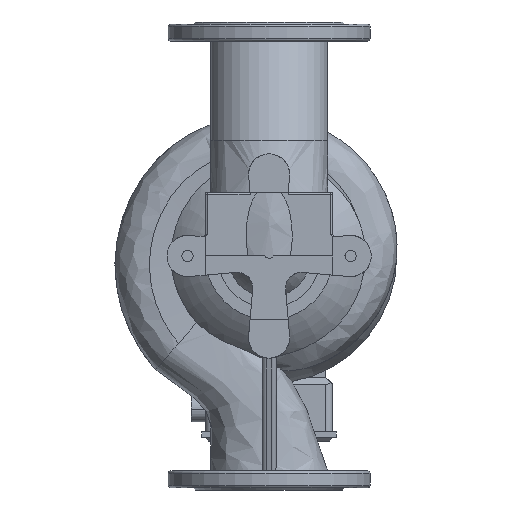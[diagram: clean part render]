
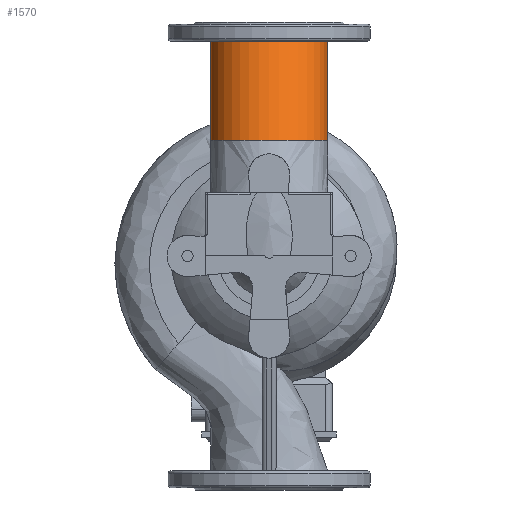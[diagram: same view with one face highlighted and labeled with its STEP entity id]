
A CAD part, front view. The second image highlights one B-rep face of the part: STEP entity #1570.
In plain terms, the highlighted free-form (B-spline) face has degree [3, 1] with [7, 2] control points.
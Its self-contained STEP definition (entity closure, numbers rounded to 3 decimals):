
#87 = AXIS2_PLACEMENT_3D ( 'NONE', #618, #7766, #1107 ) ;
#618 = CARTESIAN_POINT ( 'NONE',  ( 0., 0., 303. ) ) ;
#664 = VERTEX_POINT ( 'NONE', #5481 ) ;
#1107 = DIRECTION ( 'NONE',  ( -1., 0., 0. ) ) ;
#1570 = ADVANCED_FACE ( 'NONE', ( #31052 ), #1951, .F. ) ;
#1865 = CARTESIAN_POINT ( 'NONE',  ( -82.5, 0., 303. ) ) ;
#1876 = CARTESIAN_POINT ( 'NONE',  ( -82.5, 0., 303. ) ) ;
#1927 = EDGE_CURVE ( 'NONE', #29829, #6355, #22548, .T. ) ;
#1951 =( BOUNDED_SURFACE ( )  B_SPLINE_SURFACE ( 3, 1, ( 
 ( #16642, #30759 ),
 ( #19186, #4093 ),
 ( #28512, #13777 ),
 ( #21251, #21084 ),
 ( #19015, #23616 ),
 ( #23445, #2322 ),
 ( #13926, #1865 ) ),
 .UNSPECIFIED., .T., .F., .F. ) 
 B_SPLINE_SURFACE_WITH_KNOTS ( ( 4, 3, 4 ),
 ( 2, 2 ),
 ( 0., 0.5, 1. ),
 ( 0., 1. ),
 .UNSPECIFIED. ) 
 GEOMETRIC_REPRESENTATION_ITEM ( )  RATIONAL_B_SPLINE_SURFACE ( (
 ( 1., 1.),
 ( 0.333, 0.333),
 ( 0.333, 0.333),
 ( 1., 1.),
 ( 0.333, 0.333),
 ( 0.333, 0.333),
 ( 1., 1.) ) ) 
 REPRESENTATION_ITEM ( '' )  SURFACE ( )  );
#2322 = CARTESIAN_POINT ( 'NONE',  ( -82.5, -165., 303. ) ) ;
#3192 = EDGE_CURVE ( 'NONE', #29829, #664, #30754, .T. ) ;
#4093 = CARTESIAN_POINT ( 'NONE',  ( -82.5, 165., 303. ) ) ;
#4247 = CARTESIAN_POINT ( 'NONE',  ( -82.5, -65.302, 162.96 ) ) ;
#5481 = CARTESIAN_POINT ( 'NONE',  ( 82.5, 0., 303. ) ) ;
#5933 = EDGE_LOOP ( 'NONE', ( #19991, #20285, #20186, #25423 ) ) ;
#6355 = VERTEX_POINT ( 'NONE', #19315 ) ;
#7356 = CARTESIAN_POINT ( 'NONE',  ( 82.5, 0., 303. ) ) ;
#7766 = DIRECTION ( 'NONE',  ( 0., 0., -1. ) ) ;
#9293 = B_SPLINE_CURVE_WITH_KNOTS ( 'NONE', 1,
 ( #4247, #1876 ),
 .UNSPECIFIED., .F., .F.,
 ( 2, 2 ),
 ( 0., 1. ),
 .UNSPECIFIED. ) ;
#9391 = AXIS2_PLACEMENT_3D ( 'NONE', #11348, #11673, #16145 ) ;
#9746 = CARTESIAN_POINT ( 'NONE',  ( 82.5, -65.302, 162.96 ) ) ;
#11348 = CARTESIAN_POINT ( 'NONE',  ( 0., -65.302, 162.96 ) ) ;
#11673 = DIRECTION ( 'NONE',  ( 0., 0., -1. ) ) ;
#13777 = CARTESIAN_POINT ( 'NONE',  ( 82.5, 165., 303. ) ) ;
#13808 = CIRCLE ( 'NONE', #87, 82.5 ) ;
#13926 = CARTESIAN_POINT ( 'NONE',  ( -82.5, -65.302, 162.96 ) ) ;
#16145 = DIRECTION ( 'NONE',  ( -1., 0., 0. ) ) ;
#16642 = CARTESIAN_POINT ( 'NONE',  ( -82.5, -65.302, 162.96 ) ) ;
#17139 = EDGE_CURVE ( 'NONE', #6355, #22781, #9293, .T. ) ;
#18943 = CARTESIAN_POINT ( 'NONE',  ( 82.5, -65.302, 162.96 ) ) ;
#19015 = CARTESIAN_POINT ( 'NONE',  ( 82.5, -230.302, 162.96 ) ) ;
#19186 = CARTESIAN_POINT ( 'NONE',  ( -82.5, 99.698, 162.96 ) ) ;
#19315 = CARTESIAN_POINT ( 'NONE',  ( -82.5, -65.302, 162.96 ) ) ;
#19991 = ORIENTED_EDGE ( 'NONE', *, *, #1927, .F. ) ;
#20186 = ORIENTED_EDGE ( 'NONE', *, *, #22042, .T. ) ;
#20285 = ORIENTED_EDGE ( 'NONE', *, *, #3192, .T. ) ;
#21084 = CARTESIAN_POINT ( 'NONE',  ( 82.5, 0., 303. ) ) ;
#21251 = CARTESIAN_POINT ( 'NONE',  ( 82.5, -65.302, 162.96 ) ) ;
#22042 = EDGE_CURVE ( 'NONE', #664, #22781, #13808, .T. ) ;
#22548 = CIRCLE ( 'NONE', #9391, 82.5 ) ;
#22781 = VERTEX_POINT ( 'NONE', #25429 ) ;
#23445 = CARTESIAN_POINT ( 'NONE',  ( -82.5, -230.302, 162.96 ) ) ;
#23616 = CARTESIAN_POINT ( 'NONE',  ( 82.5, -165., 303. ) ) ;
#25423 = ORIENTED_EDGE ( 'NONE', *, *, #17139, .F. ) ;
#25429 = CARTESIAN_POINT ( 'NONE',  ( -82.5, 0., 303. ) ) ;
#28512 = CARTESIAN_POINT ( 'NONE',  ( 82.5, 99.698, 162.96 ) ) ;
#29829 = VERTEX_POINT ( 'NONE', #18943 ) ;
#30754 = B_SPLINE_CURVE_WITH_KNOTS ( 'NONE', 1,
 ( #9746, #7356 ),
 .UNSPECIFIED., .F., .F.,
 ( 2, 2 ),
 ( 0., 1. ),
 .UNSPECIFIED. ) ;
#30759 = CARTESIAN_POINT ( 'NONE',  ( -82.5, 0., 303. ) ) ;
#31052 = FACE_OUTER_BOUND ( 'NONE', #5933, .T. ) ;
